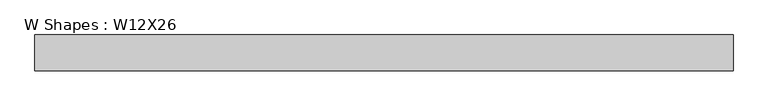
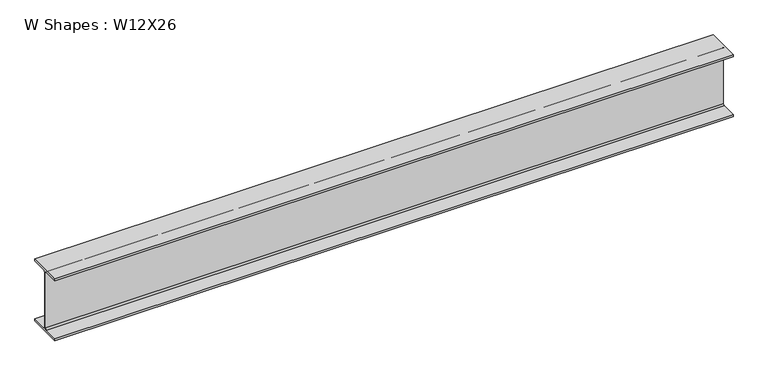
"""IFC4 building model written with IfcOpenShell, lengths in millimetres: beam geometry, W Shapes : W12X26."""

import ifcopenshell
import ifcopenshell.guid

model = None  # the IFC model being written
_history = None  # IfcOwnerHistory: only IFC2X3 demands one
_inside = {}  # id of a spatial element -> (the spatial element, [elements in it])
_under = {}  # id of a project, library or spatial element -> (it, [spatial elements below it])
_declared = {}  # id of a project -> (the project, [libraries it declares])
_typed = {}  # id of a type object -> (the type object, [elements of that type])
_made_of = {}  # id of a material, layer set ... -> (it, [elements and type objects made of it])


def new_model(schema):
    """Start an empty IFC model of exactly this schema.

    Asked for "IFC4X3", IfcOpenShell would pick the latest addendum, in which some entities
    have other attributes; the version numbers below select the first issue.
    IFC2X3 requires an IfcOwnerHistory on every rooted entity: one is made here for all.
    """
    global model, _history
    if schema == "IFC4X3":
        model = ifcopenshell.file(schema_version=(4, 3, 0, 0))
    else:
        model = ifcopenshell.file(schema=schema)
    _inside.clear()
    _under.clear()
    _declared.clear()
    _typed.clear()
    _made_of.clear()
    _history = None
    if model.schema == "IFC2X3":
        org = make("IfcOrganization", Name="unknown")
        user = make(
            "IfcPersonAndOrganization",
            ThePerson=make("IfcPerson", FamilyName="unknown"),
            TheOrganization=org,
        )
        app = make(
            "IfcApplication",
            ApplicationDeveloper=org,
            Version="unknown",
            ApplicationFullName="unknown",
            ApplicationIdentifier="unknown",
        )
        _history = make(
            "IfcOwnerHistory",
            OwningUser=user,
            OwningApplication=app,
            ChangeAction="ADDED",
            CreationDate=0,
        )
    return model


def make(cls, **values):
    """One entity of the class cls with the attributes given. An attribute that is None is left unset."""
    return model.create_entity(
        cls, **{name: value for name, value in values.items() if value is not None}
    )


def rooted(cls, **values):
    """An entity with a GlobalId (a new one), such as an element, a storey or a relation."""
    return make(cls, GlobalId=ifcopenshell.guid.new(), OwnerHistory=_history, **values)


def si_unit(unit_type, name, prefix=None):
    """IfcSIUnit, for example si_unit("LENGTHUNIT", "METRE", prefix="MILLI")."""
    return make("IfcSIUnit", UnitType=unit_type, Prefix=prefix, Name=name)


def assignment(units):
    """IfcUnitAssignment: the units of a project."""
    return None if units is None else make("IfcUnitAssignment", Units=units)


def point(xyz):
    """IfcCartesianPoint."""
    return None if xyz is None else make("IfcCartesianPoint", Coordinates=xyz)


def direction(xyz):
    """IfcDirection."""
    return None if xyz is None else make("IfcDirection", DirectionRatios=xyz)


def frame(location, z_axis=None, x_axis=None):
    """IfcAxis2Placement3D, a coordinate frame: its origin and axes. An axis left out is left unset."""
    return make(
        "IfcAxis2Placement3D",
        Location=point(location),
        Axis=direction(z_axis),
        RefDirection=direction(x_axis),
    )


def frame_2d(location, x_axis=None):
    """IfcAxis2Placement2D, a coordinate frame in the plane: its origin and x axis."""
    return make(
        "IfcAxis2Placement2D", Location=point(location), RefDirection=direction(x_axis)
    )


def origin():
    """The frame at (0, 0, 0) with its axes left unset."""
    return frame((0.0, 0.0, 0.0))


def place(relative_to, where):
    """IfcLocalPlacement: puts the frame where relative to a parent placement (None: the world)."""
    return make(
        "IfcLocalPlacement", PlacementRelTo=relative_to, RelativePlacement=where
    )


def context(
    kind, dimensions, precision=None, world=None, true_north=None, identifier=None
):
    """IfcGeometricRepresentationContext, for example the 3D "Model" context."""
    return make(
        "IfcGeometricRepresentationContext",
        ContextIdentifier=identifier,
        ContextType=kind,
        CoordinateSpaceDimension=dimensions,
        Precision=precision,
        WorldCoordinateSystem=world,
        TrueNorth=true_north,
    )


def project(units=None, contexts=None):
    """IfcProject with its units and contexts."""
    return rooted(
        "IfcProject",
        Name="project",
        RepresentationContexts=contexts,
        UnitsInContext=assignment(units),
    )


def spatial(cls, under=None, at=None, **own):
    """A site, building, storey or space (cls), placed at a placement, below another one or the project."""
    s = rooted(cls, ObjectPlacement=at, **own)
    if under is not None:
        _under.setdefault(under.id(), (under, []))[1].append(s)
    return s


def polyline(points):
    """IfcPolyline through the points."""
    return make("IfcPolyline", Points=[point(p) for p in points])


def circle_curve(where, radius):
    """IfcCircle in the frame where."""
    return make("IfcCircle", Position=where, Radius=radius)


def trimmed(basis, trim1, trim2, sense, master):
    """IfcTrimmedCurve: the piece of a basis curve between two trims."""
    return make(
        "IfcTrimmedCurve",
        BasisCurve=basis,
        Trim1=trim1,
        Trim2=trim2,
        SenseAgreement=sense,
        MasterRepresentation=master,
    )


def segment(curve, same_sense, transition):
    """IfcCompositeCurveSegment."""
    return make(
        "IfcCompositeCurveSegment",
        Transition=transition,
        SameSense=same_sense,
        ParentCurve=curve,
    )


def composite_curve(segments, self_intersect=None):
    """IfcCompositeCurve: segments joined end to end."""
    return make("IfcCompositeCurve", Segments=segments, SelfIntersect=self_intersect)


def outline(outer, holes=None, kind="AREA"):
    """IfcArbitraryClosedProfileDef: a profile drawn as a closed curve; with holes, ...WithVoids."""
    if holes is None:
        return make("IfcArbitraryClosedProfileDef", ProfileType=kind, OuterCurve=outer)
    return make(
        "IfcArbitraryProfileDefWithVoids",
        ProfileType=kind,
        OuterCurve=outer,
        InnerCurves=holes,
    )


def extrude(swept, where, along, depth):
    """IfcExtrudedAreaSolid: the profile swept, set in the frame where, extruded along a direction by depth."""
    return make(
        "IfcExtrudedAreaSolid",
        SweptArea=swept,
        Position=where,
        ExtrudedDirection=direction(along),
        Depth=depth,
    )


def shape(context_of_items, identifier, shape_type, items):
    """IfcShapeRepresentation: the items that make up one representation, for example the "Body"."""
    return make(
        "IfcShapeRepresentation",
        ContextOfItems=context_of_items,
        RepresentationIdentifier=identifier,
        RepresentationType=shape_type,
        Items=items,
    )


def source(mapping_origin, context_of_items, identifier, shape_type, items):
    """IfcRepresentationMap: a shape defined once, which mapped items show again and again."""
    return make(
        "IfcRepresentationMap",
        MappingOrigin=mapping_origin,
        MappedRepresentation=shape(context_of_items, identifier, shape_type, items),
    )


def transform(
    local_origin,
    x_axis=None,
    y_axis=None,
    z_axis=None,
    scale=None,
    scale2=None,
    scale3=None,
    uniform=True,
):
    """IfcCartesianTransformationOperator3D, or its non-uniform kind. x_axis, y_axis, z_axis: its Axis1, 2, 3."""
    if uniform:
        return make(
            "IfcCartesianTransformationOperator3D",
            Axis1=direction(x_axis),
            Axis2=direction(y_axis),
            LocalOrigin=point(local_origin),
            Scale=scale,
            Axis3=direction(z_axis),
        )
    return make(
        "IfcCartesianTransformationOperator3DnonUniform",
        Axis1=direction(x_axis),
        Axis2=direction(y_axis),
        LocalOrigin=point(local_origin),
        Scale=scale,
        Axis3=direction(z_axis),
        Scale2=scale2,
        Scale3=scale3,
    )


def mapped(mapping_source, mapping_target):
    """IfcMappedItem: shows the shape of a source again, moved by a transform."""
    return make(
        "IfcMappedItem", MappingSource=mapping_source, MappingTarget=mapping_target
    )


def made_of(thing, what):
    """Note that an element or type object is made of a material, layer set ...; save() writes the relation."""
    if what is not None:
        _made_of.setdefault(what.id(), (what, []))[1].append(thing)
    return thing


def element(
    cls,
    number,
    at=None,
    inside=None,
    cuts=None,
    type_object=None,
    material=None,
    context=None,
    identifier="Body",
    shape_type=None,
    held_by="IfcProductDefinitionShape",
    body=None,
    shapes=None,
    **own,
):
    """One element of the class cls, such as IfcWall. Its Tag is "e" and its number.

    at: its placement. inside: the storey or other place that contains it. cuts: it is an
    opening in that element (IfcRelVoidsElement). A single representation is given by context,
    identifier, shape_type and body (its items); several are given by shapes. held_by: the class
    of the entity that holds the representations. save() writes the other relations.
    """
    e = rooted(cls, Tag="e%d" % number, ObjectPlacement=at, **own)
    if body is not None:
        shapes = [shape(context, identifier, shape_type, body)]
    if shapes is not None:
        e.Representation = make(held_by, Representations=shapes)
    if inside is not None:
        _inside.setdefault(inside.id(), (inside, []))[1].append(e)
    if cuts is not None:
        rooted(
            "IfcRelVoidsElement", RelatingBuildingElement=cuts, RelatedOpeningElement=e
        )
    if type_object is not None:
        _typed.setdefault(type_object.id(), (type_object, []))[1].append(e)
    return made_of(e, material)


def aggregate(whole, parts):
    """IfcRelAggregates: a whole, such as a stair, and the parts it consists of."""
    return rooted("IfcRelAggregates", RelatingObject=whole, RelatedObjects=parts)


def save(model, path):
    """Write the relations noted so far, then the file.

    IfcRelAggregates (storeys below a building ...), IfcRelContainedInSpatialStructure (elements
    in a storey), IfcRelDefinesByType, IfcRelAssociatesMaterial and IfcRelDeclares: one each for
    every whole, place, type object, material and project.
    """
    for whole, parts in _under.values():
        aggregate(whole, parts)
    for where, things in _inside.values():
        rooted(
            "IfcRelContainedInSpatialStructure",
            RelatedElements=things,
            RelatingStructure=where,
        )
    for kind, things in _typed.values():
        rooted("IfcRelDefinesByType", RelatedObjects=things, RelatingType=kind)
    for what, things in _made_of.values():
        rooted("IfcRelAssociatesMaterial", RelatedObjects=things, RelatingMaterial=what)
    for by, libraries in _declared.values():
        rooted("IfcRelDeclares", RelatingContext=by, RelatedDefinitions=libraries)
    model.write(path)


def w_shapes_w12x26_e9ed42f0(model_context):
    return source(origin(), model_context, "Body", "SweptSolid", [
        extrude(outline(composite_curve([segment(polyline([(82.423, -145.288), (82.423, -154.94), (-82.423, -154.94), (-82.423, -145.288), (-10.541, -145.288)]), True, "CONTINUOUS"), segment(trimmed(circle_curve(frame_2d((-10.541, -137.668)), 7.62), [point((-10.541, -145.288))], [point((-2.921, -137.668))], True, "CARTESIAN"), True, "CONTINUOUS"), segment(polyline([(-2.921, -137.668), (-2.921, 137.668)]), True, "CONTINUOUS"), segment(trimmed(circle_curve(frame_2d((-10.541, 137.668)), 7.62), [point((-2.921, 137.668))], [point((-10.541, 145.288))], True, "CARTESIAN"), True, "CONTINUOUS"), segment(polyline([(-10.541, 145.288), (-82.423, 145.288), (-82.423, 154.94), (82.423, 154.94), (82.423, 145.288), (10.541, 145.288)]), True, "CONTINUOUS"), segment(trimmed(circle_curve(frame_2d((10.541, 137.668)), 7.62), [point((10.541, 145.288))], [point((2.921, 137.668))], True, "CARTESIAN"), True, "CONTINUOUS"), segment(polyline([(2.921, 137.668), (2.921, -137.668)]), True, "CONTINUOUS"), segment(trimmed(circle_curve(frame_2d((10.541, -137.668)), 7.62), [point((2.921, -137.668))], [point((10.541, -145.288))], True, "CARTESIAN"), True, "CONTINUOUS"), segment(polyline([(10.541, -145.288), (82.423, -145.288)]), True, "CONTINUOUS")], self_intersect=False)), frame((-1598.8939173, 0.0, 0.0), z_axis=(1.0, 0.0, 0.0), x_axis=(0.0, 1.0, 0.0)), (0.0, 0.0, 1.0), 3217.6584244),
    ])


if __name__ == "__main__":
    model = new_model("IFC4")
    model_context = context("Model", 3, world=origin())
    ifc_project = project(units=[si_unit("LENGTHUNIT", "METRE", prefix="MILLI")], contexts=[model_context])
    site = spatial("IfcSite", under=ifc_project)
    building = spatial("IfcBuilding", under=site)
    placement = place(None, origin())
    w_shapes_w12x26_shape = w_shapes_w12x26_e9ed42f0(model_context)
    element("IfcBeam", 1, ObjectType="W Shapes : W12X26", at=placement, inside=building, context=model_context, shape_type="MappedRepresentation", body=[
        mapped(w_shapes_w12x26_shape, transform((0.0, 0.0, 0.0), x_axis=(1.0, 0.0, 0.0), y_axis=(0.0, 1.0, 0.0), z_axis=(0.0, 0.0, 1.0))),
    ])
    save(model, "model.ifc")
